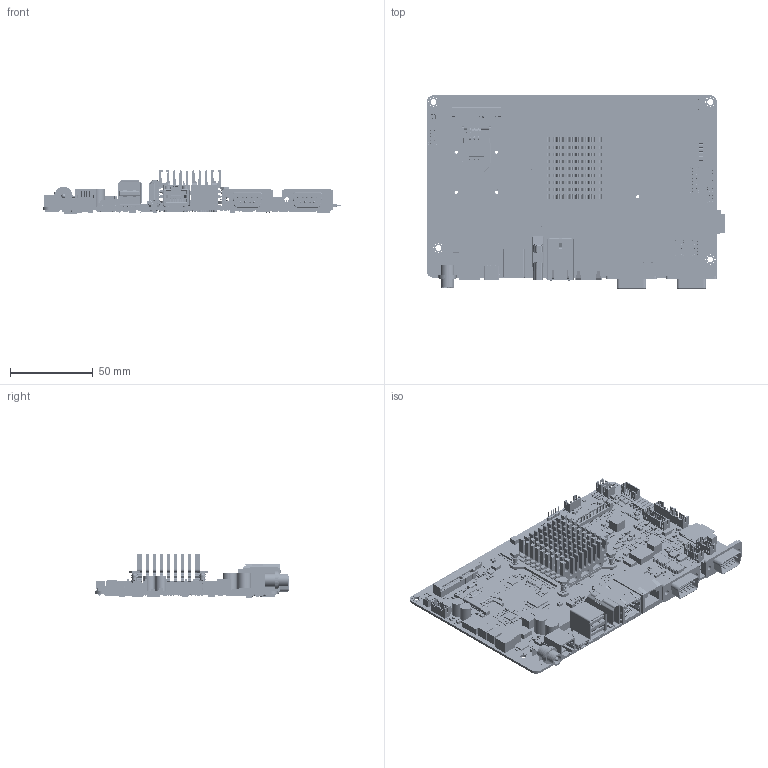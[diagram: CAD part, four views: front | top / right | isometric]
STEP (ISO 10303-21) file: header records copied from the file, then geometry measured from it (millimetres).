
FILE_DESCRIPTION((''),'2;1');
FILE_NAME('0_POS_RITY80_PCB_ASSY_ASM','2018-10-24T13:34:25',('jimmy_tseng'),(''),'CREO PARAMETRIC BY PTC INC, 2017110','CREO PARAMETRIC BY PTC INC, 2017110','');
FILE_SCHEMA(('CONFIG_CONTROL_DESIGN'));
Products named in the file (145): POS_RITY80_PCB; E1652506307R; E1654805305R; E1654252132H; E1654808307R; E1654419303R; E1654409106R; E193A3601X0R; RTF-P110; RTA-C110; RTA-C110-1; RTA-P120; RT1-C150-RIGHT; RT1-C150-RIGHT_2; RT1-C150-RIGHT_3; RT1-C150-RIGHT_4; RT1-C150-LEFT_4; RT1-C150-LEFT_3; RT1-C150-LEFT_2; RT1-C150-LEFT; CAPACITOR; RTA-P140_COPY_OF___; RTA-P130_YUANSHI; RT2-LED-RIGHT; RT2-LED-LEFT; RTF-S110_ALL_SPRING___LED; RTF_ASM; E1652514308R; E1652503106R; 1654640000; E1651X00902H; 1655302020R; E1651X00600H_ASM; E1655305020R; E1655316020R; E1653005111R; E1655310024R; E1181610761H; E1653005101R; E14S2845100H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
Assembly tree (1544 placements, depth 4):
  0_POS_RITY80_PCB_ASSY_ASM
    POS_RITY80_PCB
    E1652506307R
    E1654805305R
    E1654252132H
    E1654808307R
    E1654419303R
    E1654409106R  x2
    E193A3601X0R  x4
    RTF_ASM
      RTF-P110
      RTA-C110
      RTA-C110-1
      RTA-P120
      RT1-C150-RIGHT
      RT1-C150-RIGHT_2
      RT1-C150-RIGHT_3
      RT1-C150-RIGHT_4
      RT1-C150-LEFT_4
      RT1-C150-LEFT_3
      RT1-C150-LEFT_2
      RT1-C150-LEFT
      CAPACITOR
      RTA-P140_COPY_OF___
      RTA-P130_YUANSHI
      RT2-LED-RIGHT
      RT2-LED-LEFT
      RTF-S110_ALL_SPRING___LED
    E1652514308R
    E1652503106R
    1654640000
    E1651X00902H
    1655302020R  x2
    E1651X00600H_ASM
    E1655305020R  x2
    E1655316020R
    E1653005111R
    E1655310024R  x4
    2OUTPUT458ACP-IMX6POS_A02-0821-_ASM
      E1655305020R  x2
      E1181610761H  x3
      E1652503106R
      E1653005101R
      E14S2845100H
      E1310390412H  x5
      E1655304020R
      E14S5900800H
      E14S4251700H
      FCC-B
      E121220102BH
      E1305063040H
      E1121622610H  x8
      E1600020201R
      E1653002202R
      E1183627720H  x2
      E1655X02022R
      0030000033  x22
      0030000030  x15
      E10195003CXH
      A-R0402  x4
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Bounding box: 180 x 116.6 x 26.04 mm (x, y, z)
Volume: 80032.2 mm3; surface area: 130081.4 mm2
Topology: 1556 solids, 1575 shells, 24706 faces, 60964 edges, 39843 vertices
Faces by surface type: plane 21842, cylinder 2267, bspline 370, cone 78, extrusion 63, torus 58, sphere 28
Entity records: 341620 total; most frequent: CARTESIAN_POINT 72874, DIRECTION 55251, ORIENTED_EDGE 53298, EDGE_CURVE 27082, VECTOR 23077, LINE 23018, VERTEX_POINT 17695, AXIS2_PLACEMENT_3D 16087
